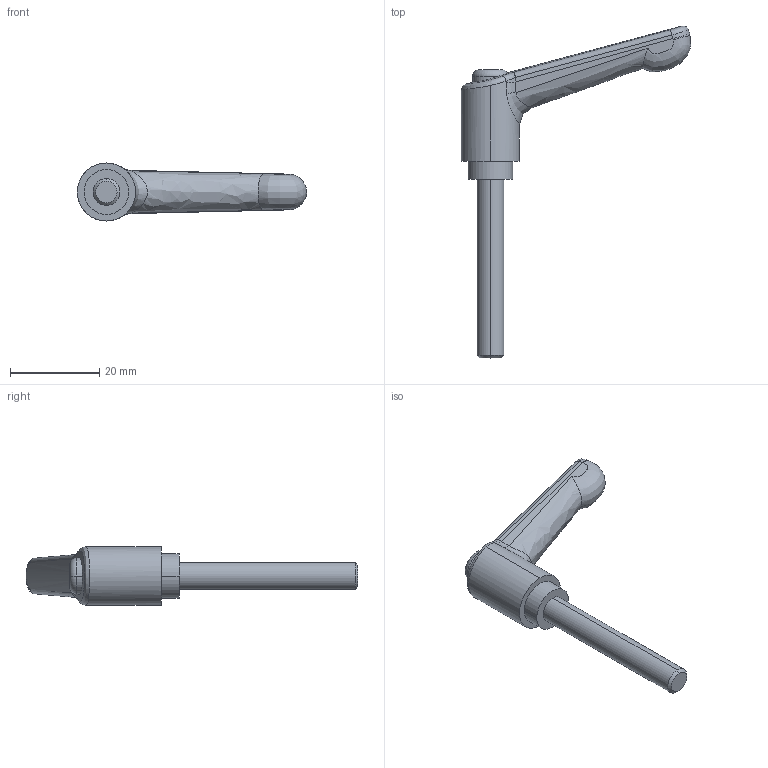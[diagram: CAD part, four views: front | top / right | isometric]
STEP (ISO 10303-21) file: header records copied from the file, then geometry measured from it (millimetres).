
FILE_DESCRIPTION (( 'STEP AP214' ), '1' );
FILE_NAME ('300.1-45-M6-40-RH.step', '2021-04-09T10:29:34', ( '' ), ( '' ), 'SwSTEP 2.0', 'SolidWorks 2019', '' );
FILE_SCHEMA (( 'AUTOMOTIVE_DESIGN' ));
Length unit declared in the file: millimetre
Products named in the file (1): 300.1-45-M6-40-RH
Bounding box: 51.28 x 74.25 x 13 mm (x, y, z)
Volume: 6339.8 mm3; surface area: 3065.5 mm2
Topology: 1 solids, 1 shells, 56 faces, 138 edges, 89 vertices
Faces by surface type: cylinder 28, bspline 14, plane 10, cone 2, torus 2
Entity records: 3214 total; most frequent: CARTESIAN_POINT 1621, ORIENTED_EDGE 276, DIRECTION 238, EDGE_CURVE 138, AXIS2_PLACEMENT_3D 102, VERTEX_POINT 89, EDGE_LOOP 61, CIRCLE 59
